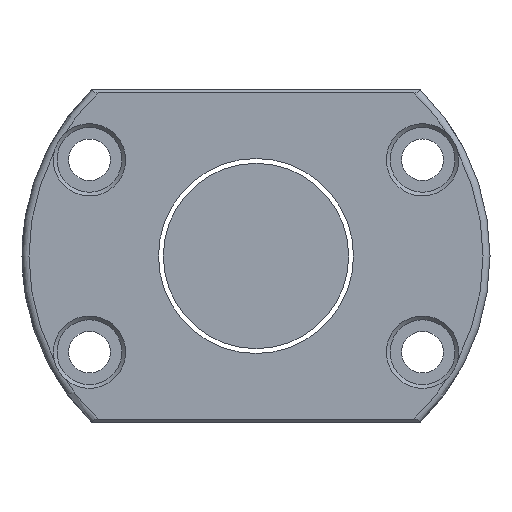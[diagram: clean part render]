
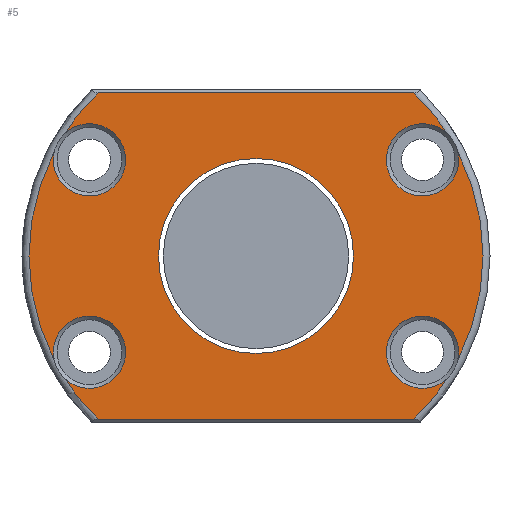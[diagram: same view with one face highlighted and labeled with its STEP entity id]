
A CAD part, left-side view. The second image highlights one B-rep face of the part: STEP entity #5.
In plain terms, the highlighted planar face has unit normal (-1, 0, 0).
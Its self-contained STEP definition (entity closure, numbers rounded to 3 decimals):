
#5 = ADVANCED_FACE ( 'NONE', ( #1624, #1398 ), #2346, .T. ) ;
#46 = ORIENTED_EDGE ( 'NONE', *, *, #833, .T. ) ;
#58 = VERTEX_POINT ( 'NONE', #1834 ) ;
#64 = AXIS2_PLACEMENT_3D ( 'NONE', #2968, #1781, #1350 ) ;
#94 = CARTESIAN_POINT ( 'NONE',  ( -59., -34.088, -35.2 ) ) ;
#95 = EDGE_CURVE ( 'NONE', #2310, #2011, #2246, .T. ) ;
#97 = DIRECTION ( 'NONE',  ( 0., 0., 1. ) ) ;
#135 = DIRECTION ( 'NONE',  ( -1., 0., 0. ) ) ;
#170 = ORIENTED_EDGE ( 'NONE', *, *, #1368, .T. ) ;
#188 = CARTESIAN_POINT ( 'NONE',  ( -59., 41.224, -26.488 ) ) ;
#191 = CARTESIAN_POINT ( 'NONE',  ( -59., 43.551, 22.457 ) ) ;
#200 = EDGE_CURVE ( 'NONE', #583, #2632, #2873, .T. ) ;
#283 = AXIS2_PLACEMENT_3D ( 'NONE', #2695, #969, #483 ) ;
#306 = VERTEX_POINT ( 'NONE', #2979 ) ;
#324 = VERTEX_POINT ( 'NONE', #2775 ) ;
#362 = DIRECTION ( 'NONE',  ( 1., 0., 0. ) ) ;
#407 = CARTESIAN_POINT ( 'NONE',  ( -59., 35.415, 35.2 ) ) ;
#419 = CARTESIAN_POINT ( 'NONE',  ( -59., 35.94, -20.75 ) ) ;
#442 = CIRCLE ( 'NONE', #2610, 7.8 ) ;
#456 = CARTESIAN_POINT ( 'NONE',  ( -59., -35.94, -20.75 ) ) ;
#483 = DIRECTION ( 'NONE',  ( 0., 0., 1. ) ) ;
#528 = AXIS2_PLACEMENT_3D ( 'NONE', #735, #1188, #3139 ) ;
#542 = AXIS2_PLACEMENT_3D ( 'NONE', #1329, #362, #1831 ) ;
#566 = CARTESIAN_POINT ( 'NONE',  ( -59., 34.088, 35.2 ) ) ;
#583 = VERTEX_POINT ( 'NONE', #1396 ) ;
#605 = CARTESIAN_POINT ( 'NONE',  ( -59., -34.088, 35.2 ) ) ;
#607 = CARTESIAN_POINT ( 'NONE',  ( -59., 0., 0. ) ) ;
#612 = AXIS2_PLACEMENT_3D ( 'NONE', #1134, #135, #97 ) ;
#622 = VERTEX_POINT ( 'NONE', #188 ) ;
#703 = CIRCLE ( 'NONE', #542, 7.8 ) ;
#735 = CARTESIAN_POINT ( 'NONE',  ( -59., 0., 0. ) ) ;
#751 = AXIS2_PLACEMENT_3D ( 'NONE', #2336, #1822, #1338 ) ;
#757 = CARTESIAN_POINT ( 'NONE',  ( -59., 35.94, 20.75 ) ) ;
#805 = AXIS2_PLACEMENT_3D ( 'NONE', #419, #2618, #2344 ) ;
#813 = VERTEX_POINT ( 'NONE', #2928 ) ;
#833 = EDGE_CURVE ( 'NONE', #2632, #1821, #1926, .T. ) ;
#834 = ORIENTED_EDGE ( 'NONE', *, *, #2607, .T. ) ;
#840 = CARTESIAN_POINT ( 'NONE',  ( -59., 43.551, -22.457 ) ) ;
#876 = ORIENTED_EDGE ( 'NONE', *, *, #2664, .T. ) ;
#878 = DIRECTION ( 'NONE',  ( -1., 0., 0. ) ) ;
#879 = DIRECTION ( 'NONE',  ( 0., 0., 1. ) ) ;
#969 = DIRECTION ( 'NONE',  ( -1., 0., 0. ) ) ;
#1088 = DIRECTION ( 'NONE',  ( -1., 0., 0. ) ) ;
#1092 = ORIENTED_EDGE ( 'NONE', *, *, #2329, .T. ) ;
#1117 = DIRECTION ( 'NONE',  ( 0., 1., 0. ) ) ;
#1125 = AXIS2_PLACEMENT_3D ( 'NONE', #757, #1746, #2464 ) ;
#1134 = CARTESIAN_POINT ( 'NONE',  ( -59., 50.5, 0. ) ) ;
#1188 = DIRECTION ( 'NONE',  ( -1., 0., 0. ) ) ;
#1194 = DIRECTION ( 'NONE',  ( 1., 0., 0. ) ) ;
#1213 = CIRCLE ( 'NONE', #805, 7.8 ) ;
#1236 = EDGE_CURVE ( 'NONE', #324, #2310, #1576, .T. ) ;
#1256 = DIRECTION ( 'NONE',  ( 0., 0., 1. ) ) ;
#1277 = DIRECTION ( 'NONE',  ( 0., -1., 0. ) ) ;
#1309 = CARTESIAN_POINT ( 'NONE',  ( -59., 0., 0. ) ) ;
#1315 = CARTESIAN_POINT ( 'NONE',  ( -59., -35.415, -35.2 ) ) ;
#1329 = CARTESIAN_POINT ( 'NONE',  ( -59., -35.94, 20.75 ) ) ;
#1338 = DIRECTION ( 'NONE',  ( 0., 0., 1. ) ) ;
#1350 = DIRECTION ( 'NONE',  ( 0., 0., 1. ) ) ;
#1368 = EDGE_CURVE ( 'NONE', #813, #1459, #3002, .T. ) ;
#1384 = AXIS2_PLACEMENT_3D ( 'NONE', #1309, #2010, #1778 ) ;
#1396 = CARTESIAN_POINT ( 'NONE',  ( -59., 41.224, 26.488 ) ) ;
#1398 = FACE_BOUND ( 'NONE', #1599, .T. ) ;
#1459 = VERTEX_POINT ( 'NONE', #605 ) ;
#1576 = LINE ( 'NONE', #1315, #1928 ) ;
#1599 = EDGE_LOOP ( 'NONE', ( #1092 ) ) ;
#1624 = FACE_OUTER_BOUND ( 'NONE', #1895, .T. ) ;
#1644 = DIRECTION ( 'NONE',  ( 0., 0., 1. ) ) ;
#1655 = ORIENTED_EDGE ( 'NONE', *, *, #2989, .T. ) ;
#1692 = ORIENTED_EDGE ( 'NONE', *, *, #1236, .T. ) ;
#1746 = DIRECTION ( 'NONE',  ( 1., 0., 0. ) ) ;
#1778 = DIRECTION ( 'NONE',  ( 0., 0., -1. ) ) ;
#1781 = DIRECTION ( 'NONE',  ( -1., 0., 0. ) ) ;
#1821 = VERTEX_POINT ( 'NONE', #840 ) ;
#1822 = DIRECTION ( 'NONE',  ( -1., 0., 0. ) ) ;
#1831 = DIRECTION ( 'NONE',  ( 0., 0., 1. ) ) ;
#1834 = CARTESIAN_POINT ( 'NONE',  ( -59., -43.551, 22.457 ) ) ;
#1895 = EDGE_LOOP ( 'NONE', ( #1692, #1981, #2880, #2576, #2335, #170, #876, #1655, #2279, #46, #834, #2555 ) ) ;
#1926 = CIRCLE ( 'NONE', #528, 49. ) ;
#1928 = VECTOR ( 'NONE', #1277, 1000. ) ;
#1957 = VERTEX_POINT ( 'NONE', #2819 ) ;
#1981 = ORIENTED_EDGE ( 'NONE', *, *, #95, .T. ) ;
#2010 = DIRECTION ( 'NONE',  ( 1., 0., 0. ) ) ;
#2011 = VERTEX_POINT ( 'NONE', #3093 ) ;
#2095 = EDGE_CURVE ( 'NONE', #306, #58, #2438, .T. ) ;
#2135 = AXIS2_PLACEMENT_3D ( 'NONE', #607, #1088, #879 ) ;
#2166 = EDGE_CURVE ( 'NONE', #2011, #306, #442, .T. ) ;
#2167 = EDGE_CURVE ( 'NONE', #622, #324, #3121, .T. ) ;
#2241 = EDGE_CURVE ( 'NONE', #58, #813, #703, .T. ) ;
#2246 = CIRCLE ( 'NONE', #2921, 49. ) ;
#2279 = ORIENTED_EDGE ( 'NONE', *, *, #200, .T. ) ;
#2310 = VERTEX_POINT ( 'NONE', #94 ) ;
#2329 = EDGE_CURVE ( 'NONE', #1957, #1957, #2357, .T. ) ;
#2335 = ORIENTED_EDGE ( 'NONE', *, *, #2241, .T. ) ;
#2336 = CARTESIAN_POINT ( 'NONE',  ( -59., 0., 0. ) ) ;
#2344 = DIRECTION ( 'NONE',  ( 0., 0., 1. ) ) ;
#2346 = PLANE ( 'NONE',  #612 ) ;
#2357 = CIRCLE ( 'NONE', #1384, 21.05 ) ;
#2438 = CIRCLE ( 'NONE', #2135, 49. ) ;
#2464 = DIRECTION ( 'NONE',  ( 0., 0., 1. ) ) ;
#2497 = VERTEX_POINT ( 'NONE', #566 ) ;
#2555 = ORIENTED_EDGE ( 'NONE', *, *, #2167, .T. ) ;
#2576 = ORIENTED_EDGE ( 'NONE', *, *, #2095, .T. ) ;
#2607 = EDGE_CURVE ( 'NONE', #1821, #622, #1213, .T. ) ;
#2610 = AXIS2_PLACEMENT_3D ( 'NONE', #456, #1194, #1256 ) ;
#2618 = DIRECTION ( 'NONE',  ( 1., 0., 0. ) ) ;
#2632 = VERTEX_POINT ( 'NONE', #191 ) ;
#2664 = EDGE_CURVE ( 'NONE', #1459, #2497, #3100, .T. ) ;
#2665 = CIRCLE ( 'NONE', #751, 49. ) ;
#2695 = CARTESIAN_POINT ( 'NONE',  ( -59., 0., 0. ) ) ;
#2775 = CARTESIAN_POINT ( 'NONE',  ( -59., 34.088, -35.2 ) ) ;
#2819 = CARTESIAN_POINT ( 'NONE',  ( -59., 0., -21.05 ) ) ;
#2861 = CARTESIAN_POINT ( 'NONE',  ( -59., 0., 0. ) ) ;
#2873 = CIRCLE ( 'NONE', #1125, 7.8 ) ;
#2880 = ORIENTED_EDGE ( 'NONE', *, *, #2166, .T. ) ;
#2916 = VECTOR ( 'NONE', #1117, 1000. ) ;
#2921 = AXIS2_PLACEMENT_3D ( 'NONE', #2861, #878, #1644 ) ;
#2928 = CARTESIAN_POINT ( 'NONE',  ( -59., -41.224, 26.488 ) ) ;
#2968 = CARTESIAN_POINT ( 'NONE',  ( -59., 0., 0. ) ) ;
#2979 = CARTESIAN_POINT ( 'NONE',  ( -59., -43.551, -22.457 ) ) ;
#2989 = EDGE_CURVE ( 'NONE', #2497, #583, #2665, .T. ) ;
#3002 = CIRCLE ( 'NONE', #64, 49. ) ;
#3093 = CARTESIAN_POINT ( 'NONE',  ( -59., -41.224, -26.488 ) ) ;
#3100 = LINE ( 'NONE', #407, #2916 ) ;
#3121 = CIRCLE ( 'NONE', #283, 49. ) ;
#3139 = DIRECTION ( 'NONE',  ( 0., 0., 1. ) ) ;
